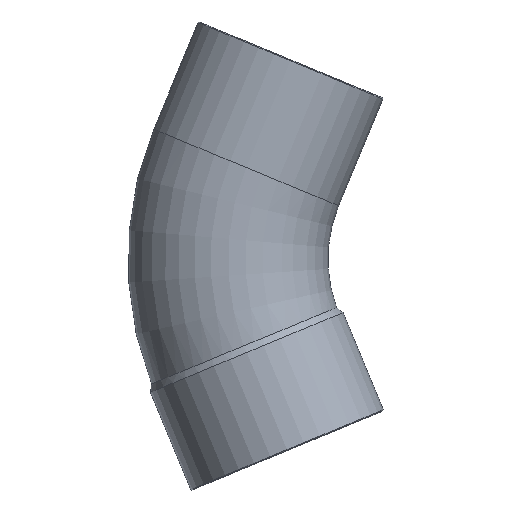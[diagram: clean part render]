
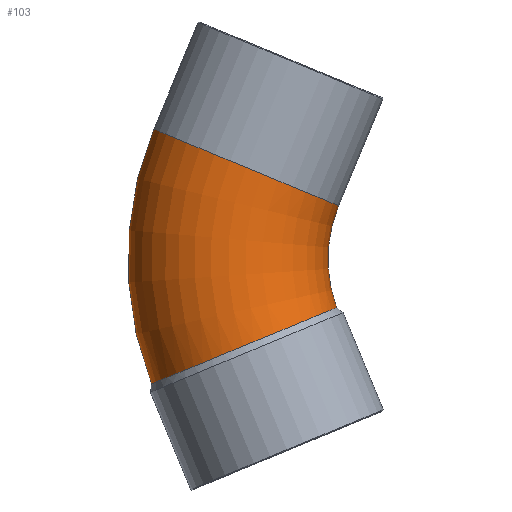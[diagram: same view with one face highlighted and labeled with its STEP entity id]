
A CAD part, front view. The second image highlights one B-rep face of the part: STEP entity #103.
In plain terms, the highlighted toroidal (fillet/blend) face has major radius 80.04 mm and minor radius 33.35 mm.
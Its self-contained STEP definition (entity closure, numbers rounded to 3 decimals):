
#44=CARTESIAN_POINT('',(4.435,0.,0.));
#45=DIRECTION('',(0.,1.0,0.));
#46=DIRECTION('',(-0.383,0.,0.924));
#47=AXIS2_PLACEMENT_3D('',#44,#45,#46);
#48=TOROIDAL_SURFACE('',#47,80.04,33.35);
#49=CARTESIAN_POINT('',(-101.067,0.,-41.553));
#50=VERTEX_POINT('',#49);
#51=CARTESIAN_POINT('',(-100.324,0.,43.392));
#52=VERTEX_POINT('',#51);
#53=CARTESIAN_POINT('',(4.435,0.,0.));
#54=DIRECTION('',(0.0,1.0,0.0));
#55=DIRECTION('',(0.0,0.0,1.0));
#56=AXIS2_PLACEMENT_3D('',#53,#54,#55);
#57=CIRCLE('',#56,113.39);
#58=EDGE_CURVE('',#50,#52,#57,.T.);
#59=ORIENTED_EDGE('',*,*,#58,.F.);
#60=CARTESIAN_POINT('',(-39.388,0.,-16.109));
#61=VERTEX_POINT('',#60);
#62=CARTESIAN_POINT('',(-101.067,0.,-41.553));
#63=CARTESIAN_POINT('',(-101.067,-2.459,-41.553));
#64=CARTESIAN_POINT('',(-100.816,-4.91,-41.449));
#65=CARTESIAN_POINT('',(-99.82,-9.707,-41.037));
#66=CARTESIAN_POINT('',(-99.078,-12.039,-40.731));
#67=CARTESIAN_POINT('',(-96.39,-18.187,-39.62));
#68=CARTESIAN_POINT('',(-93.981,-21.712,-38.624));
#69=CARTESIAN_POINT('',(-88.05,-27.566,-36.172));
#70=CARTESIAN_POINT('',(-84.583,-29.838,-34.74));
#71=CARTESIAN_POINT('',(-77.04,-32.817,-31.624));
#72=CARTESIAN_POINT('',(-73.034,-33.495,-29.97));
#73=CARTESIAN_POINT('',(-65.007,-33.153,-26.657));
#74=CARTESIAN_POINT('',(-61.062,-32.134,-25.03));
#75=CARTESIAN_POINT('',(-53.756,-28.521,-22.018));
#76=CARTESIAN_POINT('',(-50.463,-25.959,-20.662));
#77=CARTESIAN_POINT('',(-44.973,-19.619,-18.403));
#78=CARTESIAN_POINT('',(-42.827,-15.901,-17.521));
#79=CARTESIAN_POINT('',(-40.069,-8.058,-16.389));
#80=CARTESIAN_POINT('',(-39.388,-4.044,-16.109));
#81=CARTESIAN_POINT('',(-39.388,0.,-16.109));
#82=B_SPLINE_CURVE_WITH_KNOTS('',3,(#62,#63,#64,#65,#66,#67,#68,#69,#70,#71,#72,#73,#74,#75,#76,#77,#78,#79,#80,#81),.UNSPECIFIED.,.F.,.U.,(4,2,2,2,2,2,2,2,2,4),(-21.02,-20.283,-19.545,-18.242,-16.939,-15.636,-14.332,-13.029,-11.726,-10.512),.UNSPECIFIED.);
#83=EDGE_CURVE('',#50,#61,#82,.T.);
#84=ORIENTED_EDGE('',*,*,#83,.T.);
#85=CARTESIAN_POINT('',(-38.701,0.,17.867));
#86=VERTEX_POINT('',#85);
#87=CARTESIAN_POINT('',(4.435,0.,0.));
#88=DIRECTION('',(0.0,-1.0,0.0));
#89=DIRECTION('',(0.0,0.0,1.0));
#90=AXIS2_PLACEMENT_3D('',#87,#88,#89);
#91=CIRCLE('',#90,46.69);
#92=EDGE_CURVE('',#86,#61,#91,.T.);
#93=ORIENTED_EDGE('',*,*,#92,.F.);
#94=CARTESIAN_POINT('',(-69.512,0.,30.63));
#95=DIRECTION('',(-0.383,0.,-0.924));
#96=DIRECTION('',(-0.924,0.,0.383));
#97=AXIS2_PLACEMENT_3D('',#94,#95,#96);
#98=CIRCLE('',#97,33.35);
#99=EDGE_CURVE('',#86,#52,#98,.T.);
#100=ORIENTED_EDGE('',*,*,#99,.T.);
#101=EDGE_LOOP('',(#59,#84,#93,#100));
#102=FACE_OUTER_BOUND('',#101,.T.);
#103=ADVANCED_FACE('',(#102),#48,.T.);
